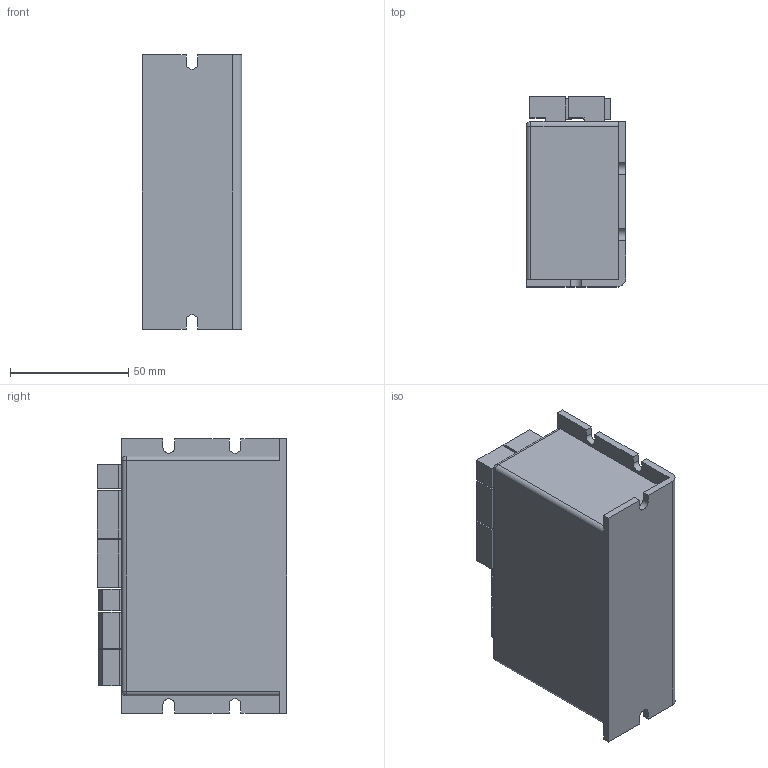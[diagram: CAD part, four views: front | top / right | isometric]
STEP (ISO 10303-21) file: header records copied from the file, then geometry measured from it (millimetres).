
FILE_DESCRIPTION((''),'2;1');
FILE_NAME('TD545-D','2024-06-23T17:19:53',('jason'),(''),'CREO PARAMETRIC BY PTC INC, 2022073','CREO PARAMETRIC BY PTC INC, 2022073','');
FILE_SCHEMA(('CONFIG_CONTROL_DESIGN'));
Length unit declared in the file: millimetre
Products named in the file (1): TD545-D
Bounding box: 42.2 x 80.41 x 116 mm (x, y, z)
Volume: 326532.9 mm3; surface area: 40145.5 mm2
Topology: 1 solids, 1 shells, 146 faces, 390 edges, 258 vertices
Faces by surface type: plane 132, cylinder 12, sphere 2
Entity records: 4508 total; most frequent: CARTESIAN_POINT 794, ORIENTED_EDGE 780, DIRECTION 706, EDGE_CURVE 390, VECTOR 366, LINE 366, VERTEX_POINT 258, AXIS2_PLACEMENT_3D 170
